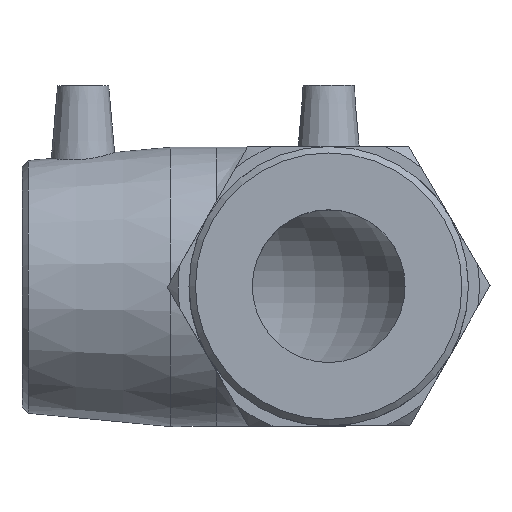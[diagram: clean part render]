
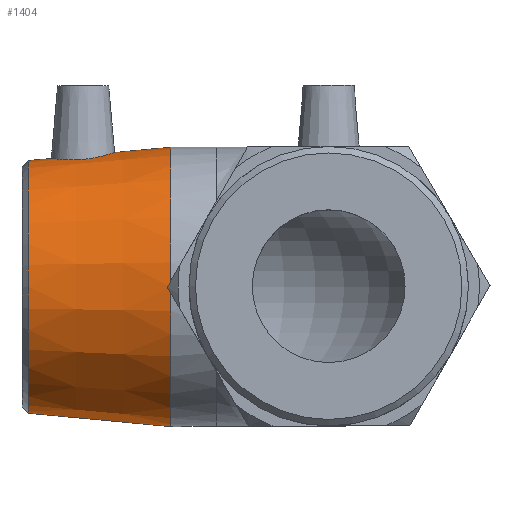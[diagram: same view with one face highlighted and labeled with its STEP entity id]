
A CAD part, top view. The second image highlights one B-rep face of the part: STEP entity #1404.
In plain terms, the highlighted conical face has half-angle 5.364 degrees and reference radius 38.95 mm.
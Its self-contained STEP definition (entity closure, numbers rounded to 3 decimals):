
#17=B_SPLINE_CURVE_WITH_KNOTS('',3,(#2360,#2361,#2362,#2363,#2364,#2365,
#2366,#2367,#2368,#2369,#2370,#2371,#2372,#2373,#2374,#2375,#2376,#2377,
#2378,#2379,#2380,#2381,#2382,#2383,#2384,#2385,#2386,#2387,#2388,#2389,
#2390,#2391,#2392,#2393),.UNSPECIFIED.,.T.,.F.,(4,2,2,2,2,2,2,2,2,2,2,2,
2,2,2,2,4),(0.,0.346,0.692,1.04,1.388,
1.736,2.084,2.43,2.776,3.14,
3.504,3.862,4.22,4.578,4.936,
5.3,5.665),.UNSPECIFIED.);
#24=FACE_BOUND('',#283,.T.);
#25=FACE_BOUND('',#284,.T.);
#135=CONICAL_SURFACE('',#1540,38.95,5.364);
#189=FACE_OUTER_BOUND('',#282,.T.);
#282=EDGE_LOOP('',(#1142));
#283=EDGE_LOOP('',(#1143));
#284=EDGE_LOOP('',(#1144));
#401=CIRCLE('',#1539,37.077);
#402=CIRCLE('',#1541,41.);
#676=VERTEX_POINT('',#2354);
#677=VERTEX_POINT('',#2357);
#678=VERTEX_POINT('',#2359);
#849=EDGE_CURVE('',#676,#676,#401,.T.);
#850=EDGE_CURVE('',#677,#677,#402,.T.);
#851=EDGE_CURVE('',#678,#678,#17,.T.);
#1142=ORIENTED_EDGE('',*,*,#850,.F.);
#1143=ORIENTED_EDGE('',*,*,#851,.T.);
#1144=ORIENTED_EDGE('',*,*,#849,.F.);
#1404=ADVANCED_FACE('',(#189,#24,#25),#135,.T.);
#1539=AXIS2_PLACEMENT_3D('',#2355,#1869,#1870);
#1540=AXIS2_PLACEMENT_3D('',#2356,#1871,#1872);
#1541=AXIS2_PLACEMENT_3D('',#2358,#1873,#1874);
#1869=DIRECTION('center_axis',(-1.,0.,0.));
#1870=DIRECTION('ref_axis',(0.,-1.,0.));
#1871=DIRECTION('center_axis',(1.,0.,0.));
#1872=DIRECTION('ref_axis',(0.,1.,0.));
#1873=DIRECTION('center_axis',(1.,0.,0.));
#1874=DIRECTION('ref_axis',(0.,0.,-1.));
#2354=CARTESIAN_POINT('',(-88.118,37.077,0.));
#2355=CARTESIAN_POINT('Origin',(-88.118,0.,0.));
#2356=CARTESIAN_POINT('Origin',(-68.167,0.,
0.));
#2357=CARTESIAN_POINT('',(-46.333,41.,0.));
#2358=CARTESIAN_POINT('Origin',(-46.333,0.,
0.));
#2359=CARTESIAN_POINT('',(-72.339,37.399,9.385));
#2360=CARTESIAN_POINT('Ctrl Pts',(-72.339,37.399,9.385));
#2361=CARTESIAN_POINT('Ctrl Pts',(-73.488,37.294,9.359));
#2362=CARTESIAN_POINT('Ctrl Pts',(-74.71,37.242,9.102));
#2363=CARTESIAN_POINT('Ctrl Pts',(-76.951,37.254,8.117));
#2364=CARTESIAN_POINT('Ctrl Pts',(-77.969,37.314,7.389));
#2365=CARTESIAN_POINT('Ctrl Pts',(-79.573,37.452,5.729));
#2366=CARTESIAN_POINT('Ctrl Pts',(-80.268,37.54,4.682));
#2367=CARTESIAN_POINT('Ctrl Pts',(-81.187,37.669,2.398));
#2368=CARTESIAN_POINT('Ctrl Pts',(-81.413,37.706,1.16));
#2369=CARTESIAN_POINT('Ctrl Pts',(-81.413,37.706,-1.16));
#2370=CARTESIAN_POINT('Ctrl Pts',(-81.187,37.669,-2.398));
#2371=CARTESIAN_POINT('Ctrl Pts',(-80.268,37.54,-4.682));
#2372=CARTESIAN_POINT('Ctrl Pts',(-79.573,37.452,-5.729));
#2373=CARTESIAN_POINT('Ctrl Pts',(-77.969,37.314,-7.389));
#2374=CARTESIAN_POINT('Ctrl Pts',(-76.951,37.254,-8.117));
#2375=CARTESIAN_POINT('Ctrl Pts',(-74.71,37.242,-9.102));
#2376=CARTESIAN_POINT('Ctrl Pts',(-73.488,37.294,-9.359));
#2377=CARTESIAN_POINT('Ctrl Pts',(-71.13,37.509,-9.413));
#2378=CARTESIAN_POINT('Ctrl Pts',(-69.848,37.691,-9.189));
#2379=CARTESIAN_POINT('Ctrl Pts',(-67.499,38.137,-8.237));
#2380=CARTESIAN_POINT('Ctrl Pts',(-66.431,38.395,-7.509));
#2381=CARTESIAN_POINT('Ctrl Pts',(-64.76,38.843,-5.835));
#2382=CARTESIAN_POINT('Ctrl Pts',(-64.039,39.063,-4.781));
#2383=CARTESIAN_POINT('Ctrl Pts',(-63.079,39.368,-2.46));
#2384=CARTESIAN_POINT('Ctrl Pts',(-62.84,39.45,-1.193));
#2385=CARTESIAN_POINT('Ctrl Pts',(-62.84,39.45,1.193));
#2386=CARTESIAN_POINT('Ctrl Pts',(-63.079,39.368,2.46));
#2387=CARTESIAN_POINT('Ctrl Pts',(-64.039,39.063,4.781));
#2388=CARTESIAN_POINT('Ctrl Pts',(-64.76,38.843,5.835));
#2389=CARTESIAN_POINT('Ctrl Pts',(-66.431,38.395,7.509));
#2390=CARTESIAN_POINT('Ctrl Pts',(-67.499,38.137,8.237));
#2391=CARTESIAN_POINT('Ctrl Pts',(-69.848,37.691,9.189));
#2392=CARTESIAN_POINT('Ctrl Pts',(-71.13,37.509,9.413));
#2393=CARTESIAN_POINT('Ctrl Pts',(-72.339,37.399,9.385));
